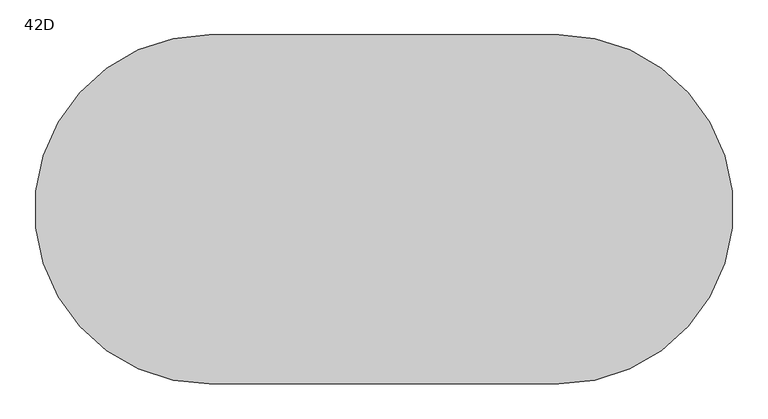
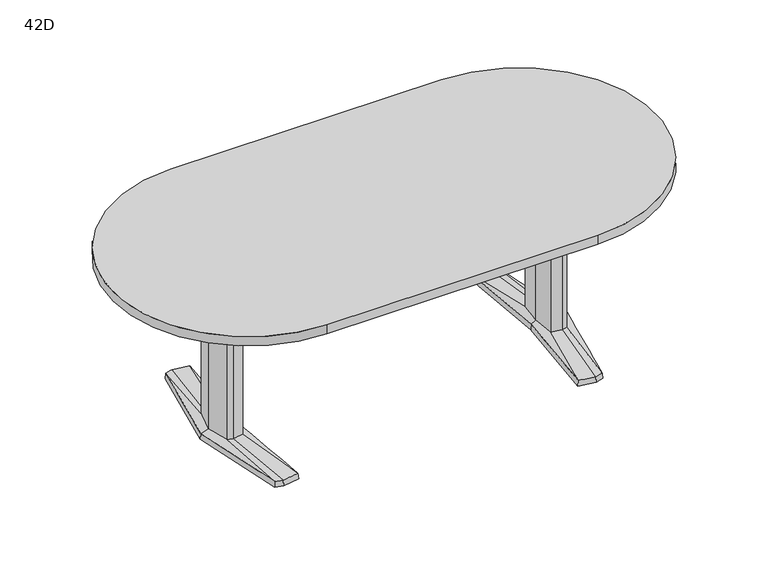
"""IFC4 building model written with IfcOpenShell, lengths in millimetres: furniture geometry, Coalesse_AM_Table_Conference_ETable2_Racetrack_84in_AluminiumBase : 42D."""

import ifcopenshell
import ifcopenshell.guid

model = None  # the IFC model being written
_history = None  # IfcOwnerHistory: only IFC2X3 demands one
_inside = {}  # id of a spatial element -> (the spatial element, [elements in it])
_under = {}  # id of a project, library or spatial element -> (it, [spatial elements below it])
_declared = {}  # id of a project -> (the project, [libraries it declares])
_typed = {}  # id of a type object -> (the type object, [elements of that type])
_made_of = {}  # id of a material, layer set ... -> (it, [elements and type objects made of it])


def new_model(schema):
    """Start an empty IFC model of exactly this schema.

    Asked for "IFC4X3", IfcOpenShell would pick the latest addendum, in which some entities
    have other attributes; the version numbers below select the first issue.
    IFC2X3 requires an IfcOwnerHistory on every rooted entity: one is made here for all.
    """
    global model, _history
    if schema == "IFC4X3":
        model = ifcopenshell.file(schema_version=(4, 3, 0, 0))
    else:
        model = ifcopenshell.file(schema=schema)
    _inside.clear()
    _under.clear()
    _declared.clear()
    _typed.clear()
    _made_of.clear()
    _history = None
    if model.schema == "IFC2X3":
        org = make("IfcOrganization", Name="unknown")
        user = make(
            "IfcPersonAndOrganization",
            ThePerson=make("IfcPerson", FamilyName="unknown"),
            TheOrganization=org,
        )
        app = make(
            "IfcApplication",
            ApplicationDeveloper=org,
            Version="unknown",
            ApplicationFullName="unknown",
            ApplicationIdentifier="unknown",
        )
        _history = make(
            "IfcOwnerHistory",
            OwningUser=user,
            OwningApplication=app,
            ChangeAction="ADDED",
            CreationDate=0,
        )
    return model


def make(cls, **values):
    """One entity of the class cls with the attributes given. An attribute that is None is left unset."""
    return model.create_entity(
        cls, **{name: value for name, value in values.items() if value is not None}
    )


def rooted(cls, **values):
    """An entity with a GlobalId (a new one), such as an element, a storey or a relation."""
    return make(cls, GlobalId=ifcopenshell.guid.new(), OwnerHistory=_history, **values)


def si_unit(unit_type, name, prefix=None):
    """IfcSIUnit, for example si_unit("LENGTHUNIT", "METRE", prefix="MILLI")."""
    return make("IfcSIUnit", UnitType=unit_type, Prefix=prefix, Name=name)


def assignment(units):
    """IfcUnitAssignment: the units of a project."""
    return None if units is None else make("IfcUnitAssignment", Units=units)


def point(xyz):
    """IfcCartesianPoint."""
    return None if xyz is None else make("IfcCartesianPoint", Coordinates=xyz)


def direction(xyz):
    """IfcDirection."""
    return None if xyz is None else make("IfcDirection", DirectionRatios=xyz)


def frame(location, z_axis=None, x_axis=None):
    """IfcAxis2Placement3D, a coordinate frame: its origin and axes. An axis left out is left unset."""
    return make(
        "IfcAxis2Placement3D",
        Location=point(location),
        Axis=direction(z_axis),
        RefDirection=direction(x_axis),
    )


def frame_2d(location, x_axis=None):
    """IfcAxis2Placement2D, a coordinate frame in the plane: its origin and x axis."""
    return make(
        "IfcAxis2Placement2D", Location=point(location), RefDirection=direction(x_axis)
    )


def origin():
    """The frame at (0, 0, 0) with its axes left unset."""
    return frame((0.0, 0.0, 0.0))


def place(relative_to, where):
    """IfcLocalPlacement: puts the frame where relative to a parent placement (None: the world)."""
    return make(
        "IfcLocalPlacement", PlacementRelTo=relative_to, RelativePlacement=where
    )


def context(
    kind, dimensions, precision=None, world=None, true_north=None, identifier=None
):
    """IfcGeometricRepresentationContext, for example the 3D "Model" context."""
    return make(
        "IfcGeometricRepresentationContext",
        ContextIdentifier=identifier,
        ContextType=kind,
        CoordinateSpaceDimension=dimensions,
        Precision=precision,
        WorldCoordinateSystem=world,
        TrueNorth=true_north,
    )


def project(units=None, contexts=None):
    """IfcProject with its units and contexts."""
    return rooted(
        "IfcProject",
        Name="project",
        RepresentationContexts=contexts,
        UnitsInContext=assignment(units),
    )


def spatial(cls, under=None, at=None, **own):
    """A site, building, storey or space (cls), placed at a placement, below another one or the project."""
    s = rooted(cls, ObjectPlacement=at, **own)
    if under is not None:
        _under.setdefault(under.id(), (under, []))[1].append(s)
    return s


def polyline(points):
    """IfcPolyline through the points."""
    return make("IfcPolyline", Points=[point(p) for p in points])


def circle_curve(where, radius):
    """IfcCircle in the frame where."""
    return make("IfcCircle", Position=where, Radius=radius)


def trimmed(basis, trim1, trim2, sense, master):
    """IfcTrimmedCurve: the piece of a basis curve between two trims."""
    return make(
        "IfcTrimmedCurve",
        BasisCurve=basis,
        Trim1=trim1,
        Trim2=trim2,
        SenseAgreement=sense,
        MasterRepresentation=master,
    )


def segment(curve, same_sense, transition):
    """IfcCompositeCurveSegment."""
    return make(
        "IfcCompositeCurveSegment",
        Transition=transition,
        SameSense=same_sense,
        ParentCurve=curve,
    )


def composite_curve(segments, self_intersect=None):
    """IfcCompositeCurve: segments joined end to end."""
    return make("IfcCompositeCurve", Segments=segments, SelfIntersect=self_intersect)


def outline(outer, holes=None, kind="AREA"):
    """IfcArbitraryClosedProfileDef: a profile drawn as a closed curve; with holes, ...WithVoids."""
    if holes is None:
        return make("IfcArbitraryClosedProfileDef", ProfileType=kind, OuterCurve=outer)
    return make(
        "IfcArbitraryProfileDefWithVoids",
        ProfileType=kind,
        OuterCurve=outer,
        InnerCurves=holes,
    )


def extrude(swept, where, along, depth):
    """IfcExtrudedAreaSolid: the profile swept, set in the frame where, extruded along a direction by depth."""
    return make(
        "IfcExtrudedAreaSolid",
        SweptArea=swept,
        Position=where,
        ExtrudedDirection=direction(along),
        Depth=depth,
    )


def shape(context_of_items, identifier, shape_type, items):
    """IfcShapeRepresentation: the items that make up one representation, for example the "Body"."""
    return make(
        "IfcShapeRepresentation",
        ContextOfItems=context_of_items,
        RepresentationIdentifier=identifier,
        RepresentationType=shape_type,
        Items=items,
    )


def source(mapping_origin, context_of_items, identifier, shape_type, items):
    """IfcRepresentationMap: a shape defined once, which mapped items show again and again."""
    return make(
        "IfcRepresentationMap",
        MappingOrigin=mapping_origin,
        MappedRepresentation=shape(context_of_items, identifier, shape_type, items),
    )


def transform(
    local_origin,
    x_axis=None,
    y_axis=None,
    z_axis=None,
    scale=None,
    scale2=None,
    scale3=None,
    uniform=True,
):
    """IfcCartesianTransformationOperator3D, or its non-uniform kind. x_axis, y_axis, z_axis: its Axis1, 2, 3."""
    if uniform:
        return make(
            "IfcCartesianTransformationOperator3D",
            Axis1=direction(x_axis),
            Axis2=direction(y_axis),
            LocalOrigin=point(local_origin),
            Scale=scale,
            Axis3=direction(z_axis),
        )
    return make(
        "IfcCartesianTransformationOperator3DnonUniform",
        Axis1=direction(x_axis),
        Axis2=direction(y_axis),
        LocalOrigin=point(local_origin),
        Scale=scale,
        Axis3=direction(z_axis),
        Scale2=scale2,
        Scale3=scale3,
    )


def mapped(mapping_source, mapping_target):
    """IfcMappedItem: shows the shape of a source again, moved by a transform."""
    return make(
        "IfcMappedItem", MappingSource=mapping_source, MappingTarget=mapping_target
    )


def made_of(thing, what):
    """Note that an element or type object is made of a material, layer set ...; save() writes the relation."""
    if what is not None:
        _made_of.setdefault(what.id(), (what, []))[1].append(thing)
    return thing


def element(
    cls,
    number,
    at=None,
    inside=None,
    cuts=None,
    type_object=None,
    material=None,
    context=None,
    identifier="Body",
    shape_type=None,
    held_by="IfcProductDefinitionShape",
    body=None,
    shapes=None,
    **own,
):
    """One element of the class cls, such as IfcWall. Its Tag is "e" and its number.

    at: its placement. inside: the storey or other place that contains it. cuts: it is an
    opening in that element (IfcRelVoidsElement). A single representation is given by context,
    identifier, shape_type and body (its items); several are given by shapes. held_by: the class
    of the entity that holds the representations. save() writes the other relations.
    """
    e = rooted(cls, Tag="e%d" % number, ObjectPlacement=at, **own)
    if body is not None:
        shapes = [shape(context, identifier, shape_type, body)]
    if shapes is not None:
        e.Representation = make(held_by, Representations=shapes)
    if inside is not None:
        _inside.setdefault(inside.id(), (inside, []))[1].append(e)
    if cuts is not None:
        rooted(
            "IfcRelVoidsElement", RelatingBuildingElement=cuts, RelatedOpeningElement=e
        )
    if type_object is not None:
        _typed.setdefault(type_object.id(), (type_object, []))[1].append(e)
    return made_of(e, material)


def aggregate(whole, parts):
    """IfcRelAggregates: a whole, such as a stair, and the parts it consists of."""
    return rooted("IfcRelAggregates", RelatingObject=whole, RelatedObjects=parts)


def save(model, path):
    """Write the relations noted so far, then the file.

    IfcRelAggregates (storeys below a building ...), IfcRelContainedInSpatialStructure (elements
    in a storey), IfcRelDefinesByType, IfcRelAssociatesMaterial and IfcRelDeclares: one each for
    every whole, place, type object, material and project.
    """
    for whole, parts in _under.values():
        aggregate(whole, parts)
    for where, things in _inside.values():
        rooted(
            "IfcRelContainedInSpatialStructure",
            RelatedElements=things,
            RelatingStructure=where,
        )
    for kind, things in _typed.values():
        rooted("IfcRelDefinesByType", RelatedObjects=things, RelatingType=kind)
    for what, things in _made_of.values():
        rooted("IfcRelAssociatesMaterial", RelatedObjects=things, RelatingMaterial=what)
    for by, libraries in _declared.values():
        rooted("IfcRelDeclares", RelatingContext=by, RelatedDefinitions=libraries)
    model.write(path)


def plane_surface(at):
    """IfcPlane: the flat surface through the origin of the frame at, square to its z axis."""
    return make("IfcPlane", Position=at)


def spline_surface(u_degree, v_degree, points, u_multiplicities, v_multiplicities, u_knots, v_knots, weights=None):
    """IfcBSplineSurfaceWithKnots; with weights, IfcRationalBSplineSurfaceWithKnots. points: one row for each step in u."""
    own = dict(
        UDegree=u_degree,
        VDegree=v_degree,
        ControlPointsList=[[point(p) for p in row] for row in points],
        SurfaceForm="UNSPECIFIED",
        UClosed=False,
        VClosed=False,
        SelfIntersect=False,
        UMultiplicities=u_multiplicities,
        VMultiplicities=v_multiplicities,
        UKnots=u_knots,
        VKnots=v_knots,
        KnotSpec="UNSPECIFIED",
    )
    if weights is None:
        return make("IfcBSplineSurfaceWithKnots", **own)
    return make("IfcRationalBSplineSurfaceWithKnots", WeightsData=weights, **own)


def advanced_brep(points, edges, surfaces, faces):
    """IfcAdvancedBrep: a solid bounded by faces that lie on surfaces and meet in shared edges.

    An edge is (start, end): straight between two places in points (the first is 0);
    or (start, end, curve); or (start, end, curve, False) where it runs against its curve.
    A face is (place in surfaces, loops), or (place, loops, False) where it looks against
    its surface's normal. A loop lists edges by number (the first is 1), with a minus sign
    where the edge is run from its end to its start. The first loop is the outer one.
    """
    corners = [point(p) for p in points]
    vertices = [make("IfcVertexPoint", VertexGeometry=c) for c in corners]
    made = []
    for start, end, *more in edges:
        made.append(
            make(
                "IfcEdgeCurve",
                EdgeStart=vertices[start],
                EdgeEnd=vertices[end],
                EdgeGeometry=more[0] if more else make("IfcPolyline", Points=[corners[start], corners[end]]),
                SameSense=more[1] if len(more) > 1 else True,
            )
        )
    hull = []
    for where, loops, *sense in faces:
        bounds = []
        for j, loop in enumerate(loops):
            ring = [make("IfcOrientedEdge", EdgeElement=made[abs(k) - 1], Orientation=k > 0) for k in loop]
            bounds.append(
                make(
                    "IfcFaceOuterBound" if j == 0 else "IfcFaceBound",
                    Bound=make("IfcEdgeLoop", EdgeList=ring),
                    Orientation=True,
                )
            )
        hull.append(make("IfcAdvancedFace", Bounds=bounds, FaceSurface=surfaces[where], SameSense=sense[0] if sense else True))
    return make("IfcAdvancedBrep", Outer=make("IfcClosedShell", CfsFaces=hull))


def furniture_42d_837e3238(model_context):
    return source(origin(), model_context, "Body", "SolidModel", [
        advanced_brep(
        [(614.8503471, -379.3768856, 25.4), (644.5756636, -371.5332654, 25.4), (668.2327243, -89.293702, 36.5125), (648.9795254, -94.605478, 36.5125), (606.0521001, -87.0529327, 36.5125), (551.7612538, -368.5071562, 25.4), (597.9364207, 0.0, 36.5125), (579.8389754, 0.3970149, 25.4), (606.0521001, 87.0529327, 36.5125), (551.7615002, 368.5172593, 25.4), (648.9795254, 94.605478, 36.5125), (614.8502233, 379.3769183, 25.4), (668.2327243, 89.293702, 36.5125), (644.7535458, 371.4863276, 25.4), (692.1595251, 0.0, 36.5125), (721.4851663, 0.0003516, 25.4), (578.2468742, 0.3968871, 3.175), (550.06875, 369.8367279, 3.175), (614.9213004, 381.0, 3.175), (646.1093245, 372.7704151, 3.175), (723.10625, 0.0, 3.175), (645.9309817, -372.8174744, 3.175), (614.9213004, -381.0, 3.175), (550.06875, -369.8264415, 3.175), (649.5979264, 107.6121478, 3.175), (594.3065451, 97.8843184, 3.175), (585.1810887, 0.0, 3.175), (594.3065451, -97.8843184, 3.175), (649.5979264, -107.6121478, 3.175), (678.6183473, -99.6056872, 3.175), (705.3083085, 0.0, 3.175), (678.6183473, 99.6056872, 3.175), (613.4286812, 346.9152841, 3.175), (557.7811371, 337.3364985, 3.175), (560.1889918, 324.8641942, 3.175), (612.8600644, 333.9306305, 3.175), (648.6725609, 324.4807859, 3.175), (647.5544526, 337.9105158, 3.175), (613.4286812, -346.9152841, 3.175), (647.5544526, -337.9105158, 3.175), (648.6725609, -324.4807859, 3.175), (612.8600644, -333.9306305, 3.175), (560.1889918, -324.8641942, 3.175), (557.7811371, -337.3364985, 3.175), (649.5979264, 107.6121478, 0.0), (678.6183473, 99.6056872, 0.0), (705.3083085, 0.0, 0.0), (678.6183473, -99.6056872, 0.0), (649.5979264, -107.6121478, 0.0), (594.3065451, -97.8843184, 0.0), (585.1810887, 0.0, 0.0), (594.3065451, 97.8843184, 0.0), (613.4286812, 346.9152841, 0.0), (647.5544526, 337.9105158, 0.0), (648.6725609, 324.4807859, 0.0), (612.8600644, 333.9306305, 0.0), (560.1889918, 324.8641942, 0.0), (557.7811371, 337.3364985, 0.0), (613.4286812, -346.9152841, 0.0), (557.7811371, -337.3364985, 0.0), (560.1889918, -324.8641942, 0.0), (612.8600644, -333.9306305, 0.0), (648.6725609, -324.4807859, 0.0), (647.5544526, -337.9105158, 0.0), (668.2327243, 89.293702, 698.5), (648.9795254, 94.605478, 698.5), (606.0521001, 87.0529327, 698.5), (597.9364207, 0.0, 698.5), (606.0521001, -87.0529327, 698.5), (648.9795254, -94.605478, 698.5), (668.2327243, -89.293702, 698.5), (692.1595251, 0.0, 698.5)],
        [
            (0, 1),
            (1, 2),
            (2, 3),
            (3, 0),
            (3, 4),
            (4, 5),
            (5, 0),
            (4, 6),
            (6, 7),
            (7, 5),
            (6, 8),
            (8, 9),
            (9, 7),
            (8, 10),
            (10, 11),
            (11, 9),
            (10, 12),
            (12, 13),
            (13, 11),
            (12, 14),
            (14, 15),
            (15, 13),
            (1, 15),
            (14, 2),
            (16, 17),
            (17, 18),
            (18, 19),
            (19, 20),
            (20, 21),
            (21, 22),
            (22, 23),
            (23, 16),
            (24, 25),
            (25, 26),
            (26, 27),
            (27, 28),
            (28, 29),
            (29, 30),
            (30, 31),
            (31, 24),
            (32, 33),
            (33, 34),
            (34, 35),
            (35, 36),
            (36, 37),
            (37, 32),
            (38, 39),
            (39, 40),
            (40, 41),
            (41, 42),
            (42, 43),
            (43, 38),
            (16, 7),
            (9, 17),
            (11, 18),
            (13, 19),
            (15, 20),
            (1, 21),
            (0, 22),
            (5, 23),
            (44, 45),
            (45, 46),
            (46, 47),
            (47, 48),
            (48, 49),
            (49, 50),
            (50, 51),
            (51, 44),
            (52, 53),
            (53, 54),
            (54, 55),
            (55, 56),
            (56, 57),
            (57, 52),
            (58, 59),
            (59, 60),
            (60, 61),
            (61, 62),
            (62, 63),
            (63, 58),
            (44, 24),
            (31, 45),
            (30, 46),
            (29, 47),
            (28, 48),
            (27, 49),
            (26, 50),
            (25, 51),
            (52, 32),
            (37, 53),
            (36, 54),
            (35, 55),
            (34, 56),
            (33, 57),
            (58, 38),
            (43, 59),
            (42, 60),
            (41, 61),
            (40, 62),
            (39, 63),
            (64, 65),
            (65, 66),
            (66, 67),
            (67, 68),
            (68, 69),
            (69, 70),
            (70, 71),
            (71, 64),
            (71, 14),
            (12, 64),
            (70, 2),
            (69, 3),
            (68, 4),
            (67, 6),
            (66, 8),
            (65, 10),
        ],
        [
            spline_surface(1, 1, [[(644.5756636, -371.5332654, 25.4), (614.8503471, -379.3768856, 25.4)], [(668.2327243, -89.293702, 36.5125), (648.9795254, -94.605478, 36.5125)]], [2, 2], [2, 2], [0.0, 1.0], [0.0, 1.0]),
            spline_surface(1, 1, [[(614.8503471, -379.3768856, 25.4), (551.7612538, -368.5071562, 25.4)], [(648.9795254, -94.605478, 36.5125), (606.0521001, -87.0529327, 36.5125)]], [2, 2], [2, 2], [0.0, 1.0], [0.0, 1.0]),
            spline_surface(1, 1, [[(551.7612538, -368.5071562, 25.4), (579.8389754, 0.3970149, 25.4)], [(606.0521001, -87.0529327, 36.5125), (597.9364207, 0.0, 36.5125)]], [2, 2], [2, 2], [0.0, 1.0], [0.0, 1.0]),
            spline_surface(1, 1, [[(579.8389754, 0.3970149, 25.4), (551.7615002, 368.5172593, 25.4)], [(597.9364207, 0.0, 36.5125), (606.0521001, 87.0529327, 36.5125)]], [2, 2], [2, 2], [0.0, 1.0], [0.0, 1.0]),
            spline_surface(1, 1, [[(551.7615002, 368.5172593, 25.4), (614.8502233, 379.3769183, 25.4)], [(606.0521001, 87.0529327, 36.5125), (648.9795254, 94.605478, 36.5125)]], [2, 2], [2, 2], [0.0, 1.0], [0.0, 1.0]),
            spline_surface(1, 1, [[(614.8502233, 379.3769183, 25.4), (644.7535458, 371.4863276, 25.4)], [(648.9795254, 94.605478, 36.5125), (668.2327243, 89.293702, 36.5125)]], [2, 2], [2, 2], [0.0, 1.0], [0.0, 1.0]),
            spline_surface(1, 1, [[(644.7535458, 371.4863276, 25.4), (721.4851663, 0.0003516, 25.4)], [(668.2327243, 89.293702, 36.5125), (692.1595251, 0.0, 36.5125)]], [2, 2], [2, 2], [0.0, 1.0], [0.0, 1.0]),
            spline_surface(1, 1, [[(721.4851663, 0.0003516, 25.4), (644.5756636, -371.5332654, 25.4)], [(692.1595251, 0.0, 36.5125), (668.2327243, -89.293702, 36.5125)]], [2, 2], [2, 2], [0.0, 1.0], [0.0, 1.0]),
            plane_surface(frame((615.4216914, 0.0450143, 3.175), z_axis=(0.0, 0.0, -1.0), x_axis=(-0.9669048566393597, -0.2551372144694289, 0.0))),
            plane_surface(frame((564.1578121, 185.1168075, 3.175), z_axis=(-0.9945699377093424, -0.07585840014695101, 0.0712470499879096), x_axis=(-0.07605167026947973, 0.9971038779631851, 0.0))),
            plane_surface(frame((582.4950252, 375.418364, 3.175), z_axis=(-0.1692071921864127, 0.9830019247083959, 0.07124704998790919), x_axis=(0.985506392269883, 0.16963829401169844, 0.0))),
            plane_surface(frame((630.5153124, 376.8852076, 3.175), z_axis=(0.2544888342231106, 0.9644476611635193, 0.07124704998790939), x_axis=(0.9669048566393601, -0.25513721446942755, 0.0))),
            plane_surface(frame((684.6077872, 186.3852076, 3.175), z_axis=(0.9768383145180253, 0.2017690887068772, 0.07124704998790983), x_axis=(0.20228315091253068, -0.9793270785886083, 0.0))),
            plane_surface(frame((684.5186158, -186.4087372, 3.175), z_axis=(0.9767507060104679, -0.20219276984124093, 0.07124704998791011), x_axis=(-0.2027079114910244, -0.9792392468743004, 0.0))),
            plane_surface(frame((630.426141, -376.9087372, 3.175), z_axis=(0.2544888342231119, -0.9644476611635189, 0.0712470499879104), x_axis=(-0.9669048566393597, -0.2551372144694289, 0.0))),
            plane_surface(frame((582.4950252, -375.4132207, 3.175), z_axis=(-0.16935861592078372, -0.982975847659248, 0.07124704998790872), x_axis=(-0.9854802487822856, 0.16979010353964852, 0.0))),
            plane_surface(frame((564.1578121, -184.7147772, 3.175), z_axis=(-0.9945820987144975, 0.07569878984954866, 0.07124704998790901), x_axis=(0.07589165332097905, 0.9971160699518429, 0.0))),
            plane_surface(frame((652.3571479, 106.8509046, 0.0), z_axis=(0.0, 0.0, -1.0000000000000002), x_axis=(-0.9639855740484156, 0.26595453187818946, 0.0))),
            plane_surface(frame((649.5979264, 107.6121478, 3.175), z_axis=(0.26595453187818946, 0.9639855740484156, 0.0), x_axis=(0.0, 0.0, -1.0))),
            plane_surface(frame((678.6183473, 99.6056872, 3.175), z_axis=(0.9659241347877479, 0.2588253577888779, 0.0), x_axis=(0.0, 0.0, -1.0))),
            plane_surface(frame((705.3083085, 0.0, 3.175), z_axis=(0.9659241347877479, -0.2588253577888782, 0.0), x_axis=(0.0, 0.0, -1.0))),
            plane_surface(frame((678.6183473, -99.6056872, 3.175), z_axis=(0.26595453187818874, -0.9639855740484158, 0.0), x_axis=(0.0, 0.0, -1.0))),
            plane_surface(frame((649.5979264, -107.6121478, 3.175), z_axis=(-0.17327617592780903, -0.9848732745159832, 0.0), x_axis=(0.0, 0.0, -1.0))),
            plane_surface(frame((594.3065451, -97.8843184, 3.175), z_axis=(-0.9956824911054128, -0.0928244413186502, 0.0), x_axis=(0.0, 0.0, -1.0))),
            plane_surface(frame((585.1810887, 0.0, 3.175), z_axis=(-0.9956824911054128, 0.09282444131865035, 0.0), x_axis=(0.0, 0.0, -1.0))),
            plane_surface(frame((594.3065451, 97.8843184, 3.175), z_axis=(-0.17327617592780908, 0.984873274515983, 0.0), x_axis=(0.0, 0.0, -1.0))),
            plane_surface(frame((613.4286812, 346.9152841, 3.175), z_axis=(0.25513721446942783, 0.9669048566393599, 0.0), x_axis=(0.0, 0.0, -1.0))),
            plane_surface(frame((647.5544526, 337.9105158, 3.175), z_axis=(0.9965521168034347, 0.0829691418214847, 0.0), x_axis=(0.0, 0.0, -1.0))),
            plane_surface(frame((648.6725609, 324.4807859, 3.175), z_axis=(-0.25513721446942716, -0.9669048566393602, 0.0), x_axis=(0.0, 0.0, -1.0))),
            plane_surface(frame((612.8600644, 333.9306305, 3.175), z_axis=(0.16963829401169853, -0.985506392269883, 0.0), x_axis=(0.0, 0.0, -1.0))),
            plane_surface(frame((560.1889918, 324.8641942, 3.175), z_axis=(-0.9818699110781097, -0.18955600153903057, 0.0), x_axis=(0.0, 0.0, -1.0))),
            plane_surface(frame((557.7811371, 337.3364985, 3.175), z_axis=(-0.16963829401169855, 0.9855063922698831, 0.0), x_axis=(0.0, 0.0, -1.0))),
            plane_surface(frame((613.4286812, -346.9152841, 3.175), z_axis=(-0.1696382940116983, -0.9855063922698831, 0.0), x_axis=(0.0, 0.0, -1.0))),
            plane_surface(frame((557.7811371, -337.3364985, 3.175), z_axis=(-0.9818699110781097, 0.18955600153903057, 0.0), x_axis=(0.0, 0.0, -1.0))),
            plane_surface(frame((560.1889918, -324.8641942, 3.175), z_axis=(0.16963829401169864, 0.985506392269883, 0.0), x_axis=(0.0, 0.0, -1.0))),
            plane_surface(frame((612.8600644, -333.9306305, 3.175), z_axis=(-0.2551372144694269, 0.9669048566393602, 0.0), x_axis=(0.0, 0.0, -1.0))),
            plane_surface(frame((648.6725609, -324.4807859, 3.175), z_axis=(0.9965521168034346, -0.0829691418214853, 0.0), x_axis=(0.0, 0.0, -1.0))),
            plane_surface(frame((647.5544526, -337.9105158, 3.175), z_axis=(0.2551372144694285, -0.9669048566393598, 0.0), x_axis=(0.0, 0.0, -1.0))),
            plane_surface(frame((692.1595251, 0.0, 698.5), z_axis=(0.0, 0.0, 1.0), x_axis=(0.25882535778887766, -0.965924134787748, 0.0))),
            plane_surface(frame((668.2327243, 89.293702, 698.5), z_axis=(0.965924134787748, 0.25882535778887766, 0.0), x_axis=(0.0, 0.0, -1.0))),
            plane_surface(frame((692.1595251, 0.0, 698.5), z_axis=(0.965924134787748, -0.2588253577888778, 0.0), x_axis=(0.0, 0.0, -1.0))),
            plane_surface(frame((668.2327243, -89.293702, 698.5), z_axis=(0.2659545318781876, -0.963985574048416, 0.0), x_axis=(0.0, 0.0, -1.0))),
            plane_surface(frame((648.9795254, -94.605478, 698.5), z_axis=(-0.1732761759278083, -0.9848732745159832, 0.0), x_axis=(0.0, 0.0, -1.0))),
            plane_surface(frame((606.0521001, -87.0529327, 698.5), z_axis=(-0.9956824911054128, -0.0928244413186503, 0.0), x_axis=(0.0, 0.0, -1.0))),
            plane_surface(frame((597.9364207, 0.0, 698.5), z_axis=(-0.9956824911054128, 0.09282444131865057, 0.0), x_axis=(0.0, 0.0, -1.0))),
            plane_surface(frame((606.0521001, 87.0529327, 698.5), z_axis=(-0.17327617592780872, 0.9848732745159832, 0.0), x_axis=(0.0, 0.0, -1.0))),
            plane_surface(frame((648.9795254, 94.605478, 698.5), z_axis=(0.26595453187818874, 0.9639855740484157, 0.0), x_axis=(0.0, 0.0, -1.0))),
        ],
        [
            (0, [[1, 2, 3, 4]]),
            (1, [[5, 6, 7, -4]]),
            (2, [[8, 9, 10, -6]]),
            (3, [[11, 12, 13, -9]]),
            (4, [[14, 15, 16, -12]]),
            (5, [[17, 18, 19, -15]]),
            (6, [[20, 21, 22, -18]]),
            (7, [[23, -21, 24, -2]]),
            (8, [[25, 26, 27, 28, 29, 30, 31, 32], [33, 34, 35, 36, 37, 38, 39, 40], [41, 42, 43, 44, 45, 46], [47, 48, 49, 50, 51, 52]]),
            (9, [[53, -13, 54, -25]]),
            (10, [[-54, -16, 55, -26]]),
            (11, [[-55, -19, 56, -27]]),
            (12, [[-56, -22, 57, -28]]),
            (13, [[-57, -23, 58, -29]]),
            (14, [[-58, -1, 59, -30]]),
            (15, [[-59, -7, 60, -31]]),
            (16, [[-60, -10, -53, -32]]),
            (17, [[61, 62, 63, 64, 65, 66, 67, 68]]),
            (17, [[69, 70, 71, 72, 73, 74]]),
            (17, [[75, 76, 77, 78, 79, 80]]),
            (18, [[81, -40, 82, -61]]),
            (19, [[-82, -39, 83, -62]]),
            (20, [[-83, -38, 84, -63]]),
            (21, [[-84, -37, 85, -64]]),
            (22, [[-85, -36, 86, -65]]),
            (23, [[-86, -35, 87, -66]]),
            (24, [[-87, -34, 88, -67]]),
            (25, [[-88, -33, -81, -68]]),
            (26, [[89, -46, 90, -69]]),
            (27, [[-90, -45, 91, -70]]),
            (28, [[-91, -44, 92, -71]]),
            (29, [[-92, -43, 93, -72]]),
            (30, [[-93, -42, 94, -73]]),
            (31, [[-94, -41, -89, -74]]),
            (32, [[95, -52, 96, -75]]),
            (33, [[-96, -51, 97, -76]]),
            (34, [[-97, -50, 98, -77]]),
            (35, [[-98, -49, 99, -78]]),
            (36, [[-99, -48, 100, -79]]),
            (37, [[-100, -47, -95, -80]]),
            (38, [[101, 102, 103, 104, 105, 106, 107, 108]]),
            (39, [[109, -20, 110, -108]]),
            (40, [[111, -24, -109, -107]]),
            (41, [[112, -3, -111, -106]]),
            (42, [[113, -5, -112, -105]]),
            (43, [[114, -8, -113, -104]]),
            (44, [[115, -11, -114, -103]]),
            (45, [[116, -14, -115, -102]]),
            (46, [[-110, -17, -116, -101]]),
        ],
    ),
        advanced_brep(
        [(-614.8503471, -379.3768856, 25.4), (-648.9795254, -94.605478, 36.5125), (-668.2327243, -89.293702, 36.5125), (-644.5756636, -371.5332654, 25.4), (-551.7612538, -368.5071562, 25.4), (-606.0521001, -87.0529327, 36.5125), (-579.8389754, 0.3970149, 25.4), (-597.9364207, 0.0, 36.5125), (-551.7615002, 368.5172593, 25.4), (-606.0521001, 87.0529327, 36.5125), (-614.8502233, 379.3769183, 25.4), (-648.9795254, 94.605478, 36.5125), (-644.7535458, 371.4863276, 25.4), (-668.2327243, 89.293702, 36.5125), (-721.4851663, 0.0003516, 25.4), (-692.1595251, 0.0, 36.5125), (-578.2468742, 0.3968871, 3.175), (-550.06875, -369.8264415, 3.175), (-614.9213004, -381.0, 3.175), (-645.9309817, -372.8174744, 3.175), (-723.10625, 0.0, 3.175), (-646.1093245, 372.7704151, 3.175), (-614.9213004, 381.0, 3.175), (-550.06875, 369.8367279, 3.175), (-649.5979264, 107.6121478, 3.175), (-678.6183473, 99.6056872, 3.175), (-705.3083085, 0.0, 3.175), (-678.6183473, -99.6056872, 3.175), (-649.5979264, -107.6121478, 3.175), (-594.3065451, -97.8843184, 3.175), (-585.1810887, 0.0, 3.175), (-594.3065451, 97.8843184, 3.175), (-613.4286812, 346.9152841, 3.175), (-647.5544526, 337.9105158, 3.175), (-648.6725609, 324.4807859, 3.175), (-612.8600644, 333.9306305, 3.175), (-560.1889918, 324.8641942, 3.175), (-557.7811371, 337.3364985, 3.175), (-613.4286812, -346.9152841, 3.175), (-557.7811371, -337.3364985, 3.175), (-560.1889918, -324.8641942, 3.175), (-612.8600644, -333.9306305, 3.175), (-648.6725609, -324.4807859, 3.175), (-647.5544526, -337.9105158, 3.175), (-649.5979264, 107.6121478, 0.0), (-594.3065451, 97.8843184, 0.0), (-585.1810887, 0.0, 0.0), (-594.3065451, -97.8843184, 0.0), (-649.5979264, -107.6121478, 0.0), (-678.6183473, -99.6056872, 0.0), (-705.3083085, 0.0, 0.0), (-678.6183473, 99.6056872, 0.0), (-613.4286812, 346.9152841, 0.0), (-557.7811371, 337.3364985, 0.0), (-560.1889918, 324.8641942, 0.0), (-612.8600644, 333.9306305, 0.0), (-648.6725609, 324.4807859, 0.0), (-647.5544526, 337.9105158, 0.0), (-613.4286812, -346.9152841, 0.0), (-647.5544526, -337.9105158, 0.0), (-648.6725609, -324.4807859, 0.0), (-612.8600644, -333.9306305, 0.0), (-560.1889918, -324.8641942, 0.0), (-557.7811371, -337.3364985, 0.0), (-668.2327243, 89.293702, 698.5), (-692.1595251, 0.0, 698.5), (-668.2327243, -89.293702, 698.5), (-648.9795254, -94.605478, 698.5), (-606.0521001, -87.0529327, 698.5), (-597.9364207, 0.0, 698.5), (-606.0521001, 87.0529327, 698.5), (-648.9795254, 94.605478, 698.5)],
        [
            (0, 1),
            (1, 2),
            (2, 3),
            (3, 0),
            (0, 4),
            (4, 5),
            (5, 1),
            (4, 6),
            (6, 7),
            (7, 5),
            (6, 8),
            (8, 9),
            (9, 7),
            (8, 10),
            (10, 11),
            (11, 9),
            (10, 12),
            (12, 13),
            (13, 11),
            (12, 14),
            (14, 15),
            (15, 13),
            (2, 15),
            (14, 3),
            (16, 17),
            (17, 18),
            (18, 19),
            (19, 20),
            (20, 21),
            (21, 22),
            (22, 23),
            (23, 16),
            (24, 25),
            (25, 26),
            (26, 27),
            (27, 28),
            (28, 29),
            (29, 30),
            (30, 31),
            (31, 24),
            (32, 33),
            (33, 34),
            (34, 35),
            (35, 36),
            (36, 37),
            (37, 32),
            (38, 39),
            (39, 40),
            (40, 41),
            (41, 42),
            (42, 43),
            (43, 38),
            (23, 8),
            (6, 16),
            (22, 10),
            (21, 12),
            (20, 14),
            (19, 3),
            (18, 0),
            (17, 4),
            (44, 45),
            (45, 46),
            (46, 47),
            (47, 48),
            (48, 49),
            (49, 50),
            (50, 51),
            (51, 44),
            (52, 53),
            (53, 54),
            (54, 55),
            (55, 56),
            (56, 57),
            (57, 52),
            (58, 59),
            (59, 60),
            (60, 61),
            (61, 62),
            (62, 63),
            (63, 58),
            (51, 25),
            (24, 44),
            (50, 26),
            (49, 27),
            (48, 28),
            (47, 29),
            (46, 30),
            (45, 31),
            (57, 33),
            (32, 52),
            (56, 34),
            (55, 35),
            (54, 36),
            (53, 37),
            (63, 39),
            (38, 58),
            (62, 40),
            (61, 41),
            (60, 42),
            (59, 43),
            (64, 65),
            (65, 66),
            (66, 67),
            (67, 68),
            (68, 69),
            (69, 70),
            (70, 71),
            (71, 64),
            (64, 13),
            (15, 65),
            (2, 66),
            (1, 67),
            (5, 68),
            (7, 69),
            (9, 70),
            (11, 71),
        ],
        [
            spline_surface(1, 1, [[(-644.5756636, -371.5332654, 25.4), (-668.2327243, -89.293702, 36.5125)], [(-614.8503471, -379.3768856, 25.4), (-648.9795254, -94.605478, 36.5125)]], [2, 2], [2, 2], [0.0, 1.0], [0.0, 1.0]),
            spline_surface(1, 1, [[(-614.8503471, -379.3768856, 25.4), (-648.9795254, -94.605478, 36.5125)], [(-551.7612538, -368.5071562, 25.4), (-606.0521001, -87.0529327, 36.5125)]], [2, 2], [2, 2], [0.0, 1.0], [0.0, 1.0]),
            spline_surface(1, 1, [[(-551.7612538, -368.5071562, 25.4), (-606.0521001, -87.0529327, 36.5125)], [(-579.8389754, 0.3970149, 25.4), (-597.9364207, 0.0, 36.5125)]], [2, 2], [2, 2], [0.0, 1.0], [0.0, 1.0]),
            spline_surface(1, 1, [[(-579.8389754, 0.3970149, 25.4), (-597.9364207, 0.0, 36.5125)], [(-551.7615002, 368.5172593, 25.4), (-606.0521001, 87.0529327, 36.5125)]], [2, 2], [2, 2], [0.0, 1.0], [0.0, 1.0]),
            spline_surface(1, 1, [[(-551.7615002, 368.5172593, 25.4), (-606.0521001, 87.0529327, 36.5125)], [(-614.8502233, 379.3769183, 25.4), (-648.9795254, 94.605478, 36.5125)]], [2, 2], [2, 2], [0.0, 1.0], [0.0, 1.0]),
            spline_surface(1, 1, [[(-614.8502233, 379.3769183, 25.4), (-648.9795254, 94.605478, 36.5125)], [(-644.7535458, 371.4863276, 25.4), (-668.2327243, 89.293702, 36.5125)]], [2, 2], [2, 2], [0.0, 1.0], [0.0, 1.0]),
            spline_surface(1, 1, [[(-644.7535458, 371.4863276, 25.4), (-668.2327243, 89.293702, 36.5125)], [(-721.4851663, 0.0003516, 25.4), (-692.1595251, 0.0, 36.5125)]], [2, 2], [2, 2], [0.0, 1.0], [0.0, 1.0]),
            spline_surface(1, 1, [[(-721.4851663, 0.0003516, 25.4), (-692.1595251, 0.0, 36.5125)], [(-644.5756636, -371.5332654, 25.4), (-668.2327243, -89.293702, 36.5125)]], [2, 2], [2, 2], [0.0, 1.0], [0.0, 1.0]),
            plane_surface(frame((-615.4216914, 0.0450143, 3.175), z_axis=(0.0, 0.0, -1.0), x_axis=(0.9669048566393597, -0.2551372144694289, 0.0))),
            plane_surface(frame((-564.1578121, 185.1168075, 3.175), z_axis=(0.9945699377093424, -0.07585840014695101, 0.0712470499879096), x_axis=(0.07605167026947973, 0.9971038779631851, 0.0))),
            plane_surface(frame((-582.4950252, 375.418364, 3.175), z_axis=(0.1692071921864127, 0.9830019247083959, 0.07124704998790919), x_axis=(-0.985506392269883, 0.16963829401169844, 0.0))),
            plane_surface(frame((-630.5153124, 376.8852076, 3.175), z_axis=(-0.2544888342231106, 0.9644476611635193, 0.07124704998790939), x_axis=(-0.9669048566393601, -0.25513721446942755, 0.0))),
            plane_surface(frame((-684.6077872, 186.3852076, 3.175), z_axis=(-0.9768383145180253, 0.2017690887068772, 0.07124704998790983), x_axis=(-0.20228315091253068, -0.9793270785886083, 0.0))),
            plane_surface(frame((-684.5186158, -186.4087372, 3.175), z_axis=(-0.9767507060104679, -0.20219276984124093, 0.07124704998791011), x_axis=(0.2027079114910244, -0.9792392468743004, 0.0))),
            plane_surface(frame((-630.426141, -376.9087372, 3.175), z_axis=(-0.2544888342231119, -0.9644476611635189, 0.0712470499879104), x_axis=(0.9669048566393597, -0.2551372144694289, 0.0))),
            plane_surface(frame((-582.4950252, -375.4132207, 3.175), z_axis=(0.16935861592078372, -0.982975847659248, 0.07124704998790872), x_axis=(0.9854802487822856, 0.16979010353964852, 0.0))),
            plane_surface(frame((-564.1578121, -184.7147772, 3.175), z_axis=(0.9945820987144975, 0.07569878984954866, 0.07124704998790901), x_axis=(-0.07589165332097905, 0.9971160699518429, 0.0))),
            plane_surface(frame((-652.3571479, 106.8509046, 0.0), z_axis=(0.0, 0.0, -1.0000000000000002), x_axis=(0.9639855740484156, 0.26595453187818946, 0.0))),
            plane_surface(frame((-649.5979264, 107.6121478, 3.175), z_axis=(-0.26595453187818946, 0.9639855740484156, 0.0), x_axis=(0.0, 0.0, -1.0))),
            plane_surface(frame((-678.6183473, 99.6056872, 3.175), z_axis=(-0.9659241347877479, 0.2588253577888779, 0.0), x_axis=(0.0, 0.0, -1.0))),
            plane_surface(frame((-705.3083085, 0.0, 3.175), z_axis=(-0.9659241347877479, -0.2588253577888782, 0.0), x_axis=(0.0, 0.0, -1.0))),
            plane_surface(frame((-678.6183473, -99.6056872, 3.175), z_axis=(-0.26595453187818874, -0.9639855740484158, 0.0), x_axis=(0.0, 0.0, -1.0))),
            plane_surface(frame((-649.5979264, -107.6121478, 3.175), z_axis=(0.17327617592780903, -0.9848732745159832, 0.0), x_axis=(0.0, 0.0, -1.0))),
            plane_surface(frame((-594.3065451, -97.8843184, 3.175), z_axis=(0.9956824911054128, -0.0928244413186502, 0.0), x_axis=(0.0, 0.0, -1.0))),
            plane_surface(frame((-585.1810887, 0.0, 3.175), z_axis=(0.9956824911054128, 0.09282444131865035, 0.0), x_axis=(0.0, 0.0, -1.0))),
            plane_surface(frame((-594.3065451, 97.8843184, 3.175), z_axis=(0.17327617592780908, 0.984873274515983, 0.0), x_axis=(0.0, 0.0, -1.0))),
            plane_surface(frame((-613.4286812, 346.9152841, 3.175), z_axis=(-0.25513721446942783, 0.9669048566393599, 0.0), x_axis=(0.0, 0.0, -1.0))),
            plane_surface(frame((-647.5544526, 337.9105158, 3.175), z_axis=(-0.9965521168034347, 0.0829691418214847, 0.0), x_axis=(0.0, 0.0, -1.0))),
            plane_surface(frame((-648.6725609, 324.4807859, 3.175), z_axis=(0.25513721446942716, -0.9669048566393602, 0.0), x_axis=(0.0, 0.0, -1.0))),
            plane_surface(frame((-612.8600644, 333.9306305, 3.175), z_axis=(-0.16963829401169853, -0.985506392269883, 0.0), x_axis=(0.0, 0.0, -1.0))),
            plane_surface(frame((-560.1889918, 324.8641942, 3.175), z_axis=(0.9818699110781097, -0.18955600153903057, 0.0), x_axis=(0.0, 0.0, -1.0))),
            plane_surface(frame((-557.7811371, 337.3364985, 3.175), z_axis=(0.16963829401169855, 0.9855063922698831, 0.0), x_axis=(0.0, 0.0, -1.0))),
            plane_surface(frame((-613.4286812, -346.9152841, 3.175), z_axis=(0.1696382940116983, -0.9855063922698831, 0.0), x_axis=(0.0, 0.0, -1.0))),
            plane_surface(frame((-557.7811371, -337.3364985, 3.175), z_axis=(0.9818699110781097, 0.18955600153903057, 0.0), x_axis=(0.0, 0.0, -1.0))),
            plane_surface(frame((-560.1889918, -324.8641942, 3.175), z_axis=(-0.16963829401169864, 0.985506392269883, 0.0), x_axis=(0.0, 0.0, -1.0))),
            plane_surface(frame((-612.8600644, -333.9306305, 3.175), z_axis=(0.2551372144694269, 0.9669048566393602, 0.0), x_axis=(0.0, 0.0, -1.0))),
            plane_surface(frame((-648.6725609, -324.4807859, 3.175), z_axis=(-0.9965521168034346, -0.0829691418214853, 0.0), x_axis=(0.0, 0.0, -1.0))),
            plane_surface(frame((-647.5544526, -337.9105158, 3.175), z_axis=(-0.2551372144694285, -0.9669048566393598, 0.0), x_axis=(0.0, 0.0, -1.0))),
            plane_surface(frame((-692.1595251, 0.0, 698.5), z_axis=(0.0, 0.0, 1.0), x_axis=(-0.25882535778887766, -0.965924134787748, 0.0))),
            plane_surface(frame((-668.2327243, 89.293702, 698.5), z_axis=(-0.965924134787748, 0.25882535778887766, 0.0), x_axis=(0.0, 0.0, -1.0))),
            plane_surface(frame((-692.1595251, 0.0, 698.5), z_axis=(-0.965924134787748, -0.2588253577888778, 0.0), x_axis=(0.0, 0.0, -1.0))),
            plane_surface(frame((-668.2327243, -89.293702, 698.5), z_axis=(-0.2659545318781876, -0.963985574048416, 0.0), x_axis=(0.0, 0.0, -1.0))),
            plane_surface(frame((-648.9795254, -94.605478, 698.5), z_axis=(0.1732761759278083, -0.9848732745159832, 0.0), x_axis=(0.0, 0.0, -1.0))),
            plane_surface(frame((-606.0521001, -87.0529327, 698.5), z_axis=(0.9956824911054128, -0.0928244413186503, 0.0), x_axis=(0.0, 0.0, -1.0))),
            plane_surface(frame((-597.9364207, 0.0, 698.5), z_axis=(0.9956824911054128, 0.09282444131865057, 0.0), x_axis=(0.0, 0.0, -1.0))),
            plane_surface(frame((-606.0521001, 87.0529327, 698.5), z_axis=(0.17327617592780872, 0.9848732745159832, 0.0), x_axis=(0.0, 0.0, -1.0))),
            plane_surface(frame((-648.9795254, 94.605478, 698.5), z_axis=(-0.26595453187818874, 0.9639855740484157, 0.0), x_axis=(0.0, 0.0, -1.0))),
        ],
        [
            (0, [[1, 2, 3, 4]]),
            (1, [[-1, 5, 6, 7]]),
            (2, [[-6, 8, 9, 10]]),
            (3, [[-9, 11, 12, 13]]),
            (4, [[-12, 14, 15, 16]]),
            (5, [[-15, 17, 18, 19]]),
            (6, [[-18, 20, 21, 22]]),
            (7, [[-3, 23, -21, 24]]),
            (8, [[25, 26, 27, 28, 29, 30, 31, 32], [33, 34, 35, 36, 37, 38, 39, 40], [41, 42, 43, 44, 45, 46], [47, 48, 49, 50, 51, 52]]),
            (9, [[-32, 53, -11, 54]]),
            (10, [[-31, 55, -14, -53]]),
            (11, [[-30, 56, -17, -55]]),
            (12, [[-29, 57, -20, -56]]),
            (13, [[-28, 58, -24, -57]]),
            (14, [[-27, 59, -4, -58]]),
            (15, [[-26, 60, -5, -59]]),
            (16, [[-25, -54, -8, -60]]),
            (17, [[61, 62, 63, 64, 65, 66, 67, 68]]),
            (17, [[69, 70, 71, 72, 73, 74]]),
            (17, [[75, 76, 77, 78, 79, 80]]),
            (18, [[-68, 81, -33, 82]]),
            (19, [[-67, 83, -34, -81]]),
            (20, [[-66, 84, -35, -83]]),
            (21, [[-65, 85, -36, -84]]),
            (22, [[-64, 86, -37, -85]]),
            (23, [[-63, 87, -38, -86]]),
            (24, [[-62, 88, -39, -87]]),
            (25, [[-61, -82, -40, -88]]),
            (26, [[-74, 89, -41, 90]]),
            (27, [[-73, 91, -42, -89]]),
            (28, [[-72, 92, -43, -91]]),
            (29, [[-71, 93, -44, -92]]),
            (30, [[-70, 94, -45, -93]]),
            (31, [[-69, -90, -46, -94]]),
            (32, [[-80, 95, -47, 96]]),
            (33, [[-79, 97, -48, -95]]),
            (34, [[-78, 98, -49, -97]]),
            (35, [[-77, 99, -50, -98]]),
            (36, [[-76, 100, -51, -99]]),
            (37, [[-75, -96, -52, -100]]),
            (38, [[101, 102, 103, 104, 105, 106, 107, 108]]),
            (39, [[-101, 109, -22, 110]]),
            (40, [[-102, -110, -23, 111]]),
            (41, [[-103, -111, -2, 112]]),
            (42, [[-104, -112, -7, 113]]),
            (43, [[-105, -113, -10, 114]]),
            (44, [[-106, -114, -13, 115]]),
            (45, [[-107, -115, -16, 116]]),
            (46, [[-108, -116, -19, -109]]),
        ],
    ),
        extrude(outline(composite_curve([segment(trimmed(circle_curve(frame_2d((533.4, 0.0)), 533.4), [point((533.4, 533.4))], [point((533.4, -533.4))], False, "CARTESIAN"), True, "CONTINUOUS"), segment(polyline([(533.4, -533.4), (-533.4, -533.4)]), True, "CONTINUOUS"), segment(trimmed(circle_curve(frame_2d((-533.4, 0.0)), 533.4), [point((-533.4, -533.4))], [point((-533.4, 533.4))], False, "CARTESIAN"), True, "CONTINUOUS"), segment(polyline([(-533.4, 533.4), (533.4, 533.4)]), True, "CONTINUOUS")], self_intersect=False)), frame((0.0, 0.0, 698.5), z_axis=(0.0, 0.0, 1.0), x_axis=(1.0, 0.0, 0.0)), (0.0, 0.0, 1.0), 38.1),
        extrude(outline(polyline([(96.8375, 698.5), (103.1875, 698.5), (103.1875, 476.25), (-103.1875, 476.25), (-103.1875, 698.5), (-96.8375, 698.5), (-96.8375, 482.6), (96.8375, 482.6), (96.8375, 698.5)])), frame((-597.9364207, 0.0, 0.0), z_axis=(1.0, 0.0, 0.0), x_axis=(0.0, 1.0, 0.0)), (0.0, 0.0, 1.0), 1195.8728415),
    ])


if __name__ == "__main__":
    model = new_model("IFC4")
    model_context = context("Model", 3, world=origin())
    ifc_project = project(units=[si_unit("LENGTHUNIT", "METRE", prefix="MILLI")], contexts=[model_context])
    site = spatial("IfcSite", under=ifc_project)
    building = spatial("IfcBuilding", under=site)
    placement = place(None, origin())
    furniture_42d_shape = furniture_42d_837e3238(model_context)
    element("IfcFurniture", 1, ObjectType="Coalesse_AM_Table_Conference_ETable2_Racetrack_84in_AluminiumBase : 42D", at=placement, inside=building, context=model_context, shape_type="MappedRepresentation", body=[
        mapped(furniture_42d_shape, transform((0.0, 0.0, 0.0), x_axis=(1.0, 0.0, 0.0), y_axis=(0.0, 1.0, 0.0), z_axis=(0.0, 0.0, 1.0))),
    ])
    save(model, "model.ifc")
